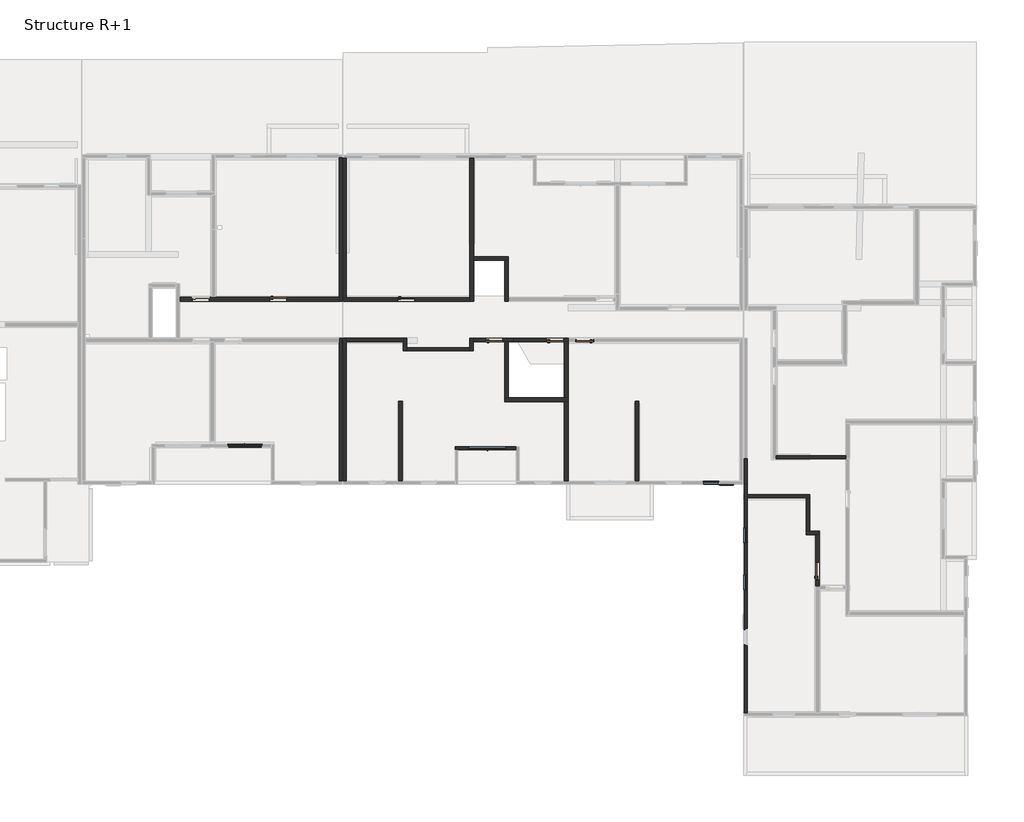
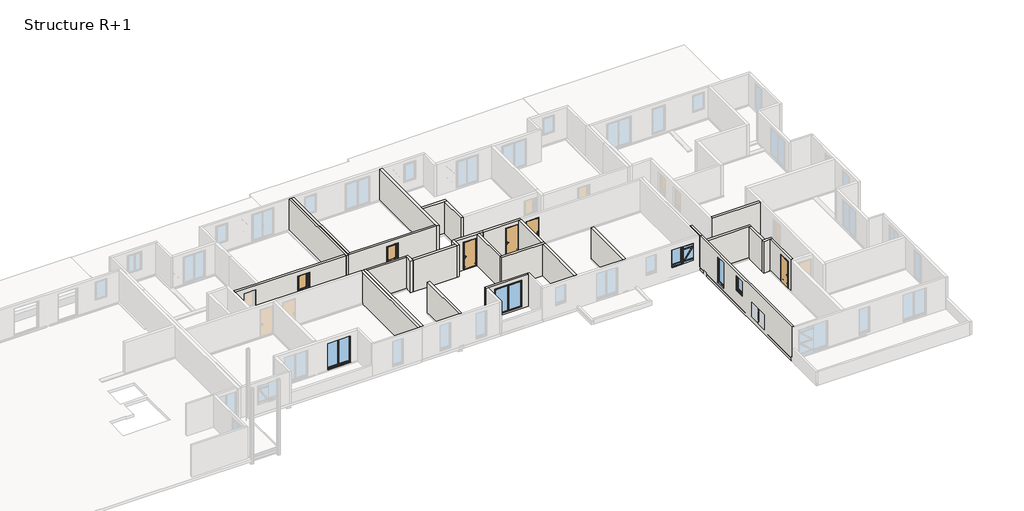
# One storey, part 5 of 11: 29 walls, 6 doors, 5 windows.
"""IFC4 building model written with IfcOpenShell, lengths in millimetres."""

from ifc_helpers import new_model, si_unit, frame, origin, place, context, project, spatial, polyline, outline, extrude, faceted_brep, transform, mapped, element, save
from components import door_88e42b76, door_d45fdbb8, door_280daffa, window_595b25a0, window_0_80m_x_1_15m_e63e5422, window_0_80m_x_2_05m_30132c93, window_1_80m_x_2_15m_7d3a4370, window_2_00m_x_2_15m_5decbdad

model = new_model("IFC4")

# Units and contexts
model_context = context("Model", 3, world=origin())
ifc_project = project(units=[si_unit("LENGTHUNIT", "METRE", prefix="MILLI")], contexts=[model_context])

# Site, building, storey
site = spatial("IfcSite", under=ifc_project)
building = spatial("IfcBuilding", under=site)
storey = spatial("IfcBuildingStorey", under=building, Name="Structure R+1", Elevation=3320.0)

# Doors
placement = place(None, origin())
door_shape = door_88e42b76(model_context)
element("IfcDoor", 1, ObjectType="Entrée (avec angle d'ouverture) : PP Avec moulures (0.90 m x 2.15 m)", at=placement, inside=storey, context=model_context, shape_type="MappedRepresentation", body=[
    mapped(door_shape, transform((34385.1786351, 24372.4965623, 3320.0), x_axis=(1.0, 0.0, 0.0), y_axis=(0.0, 1.0, 0.0), z_axis=(0.0, 0.0, 1.0))),
])
door_2_shape = door_d45fdbb8(model_context)
element("IfcDoor", 2, ObjectType="Entrée (avec angle d'ouverture) : PP Avec moulures (0.90 m x 2.15 m)", at=placement, inside=storey, context=model_context, shape_type="MappedRepresentation", body=[
    mapped(door_2_shape, transform((49225.0121044, 22187.4949823, 3320.0), x_axis=(1.0, 0.0, 0.0), y_axis=(0.0, 1.0, 0.0), z_axis=(0.0, 0.0, 1.0))),
])
element("IfcDoor", 3, ObjectType="Entrée (avec angle d'ouverture) : PP Avec moulures (0.90 m x 2.15 m)", at=placement, inside=storey, context=model_context, shape_type="MappedRepresentation", body=[
    mapped(door_2_shape, transform((45968.8671522, 22187.4951106, 3320.0), x_axis=(1.0, 0.0, 0.0), y_axis=(0.0, 1.0, 0.0), z_axis=(0.0, 0.0, 1.0))),
])
door_3_shape = door_280daffa(model_context)
element("IfcDoor", 4, ObjectType="Entrée (avec angle d'ouverture) : PP Avec moulures (0.90 m x 2.15 m)", at=placement, inside=storey, context=model_context, shape_type="MappedRepresentation", body=[
    mapped(door_3_shape, transform((41244.7127506, 24362.4952381, 3320.0), x_axis=(1.0, 0.0, 0.0), y_axis=(0.0, 1.0, 0.0), z_axis=(0.0, 0.0, 1.0))),
])
element("IfcDoor", 5, ObjectType="Entrée (avec angle d'ouverture) : PP Avec moulures (0.90 m x 2.15 m)", at=placement, inside=storey, context=model_context, shape_type="MappedRepresentation", body=[
    mapped(door_3_shape, transform((50805.0121044, 22187.4949823, 3320.0), x_axis=(-1.0, 0.0, 0.0), y_axis=(0.0, -1.0, 0.0), z_axis=(0.0, 0.0, 1.0))),
])
element("IfcDoor", 6, ObjectType="Entrée (avec angle d'ouverture) : PP Avec moulures (0.90 m x 2.15 m)", at=placement, inside=storey, context=model_context, shape_type="MappedRepresentation", body=[
    mapped(door_3_shape, transform((63287.9329052, 9804.0889515, 3320.0), x_axis=(0.0, 1.0, 0.0), y_axis=(-1.0, 0.0, 0.0), z_axis=(0.0, 0.0, 1.0))),
])

# Walls
element("IfcWall", 7, ObjectType="Ext. Voile BA 16 + Isolant 12 sans enduit", at=placement, inside=storey, context=model_context, shape_type="Brep", body=[
    faceted_brep([(59512.9059955, 14437.838074, 3230.0), (59512.9059955, 15804.7371469, 3230.0), (59512.9059955, 15804.7371469, 5830.0), (59512.9059955, 14437.838074, 5830.0), (59352.9059955, 14437.838074, 3230.0), (59352.9059955, 14437.838074, 5830.0), (59352.9059955, 15804.7371469, 5830.0), (59352.9059955, 15804.7371469, 3230.0), (59353.9486146, 14437.838074, 3230.0)], [[[0, 1, 2, 3]], [[4, 5, 6, 7]], [[1, 0, 8, 4, 7]], [[2, 1, 7, 6]], [[3, 2, 6, 5]], [[0, 3, 5, 4, 8]]]),
])
element("IfcWall", 8, ObjectType="Ext. Voile BA 16 + Isolant 120", at=placement, inside=storey, context=model_context, shape_type="Brep", body=[
    faceted_brep([(59512.9059955, 14437.838074, 5830.0), (59512.9059955, 13894.0889866, 5830.0), (59512.9059955, 13714.0889866, 5830.0), (59512.9059955, 2184.0269927, 5830.0), (59512.9059955, 2184.0269927, 3230.0), (59512.9059955, 13714.0889866, 3230.0), (59512.9059955, 13894.0889866, 3230.0), (59512.9059955, 14437.838074, 3230.0), (59512.9059955, 9590.2011252, 4355.0), (59512.9059955, 8790.2011252, 4355.0), (59512.9059955, 8740.2011252, 4355.0), (59512.9059955, 8740.2011252, 5555.0), (59512.9059955, 9640.2011252, 5555.0), (59512.9059955, 9640.2011252, 4355.0), (59512.9059955, 12169.0889866, 3455.0), (59512.9059955, 11269.0889866, 3455.0), (59512.9059955, 11269.0889866, 5555.0), (59512.9059955, 12169.0889866, 5555.0), (59512.9059955, 6705.2011252, 3455.0), (59512.9059955, 5805.2011252, 3455.0), (59512.9059955, 5805.2011252, 4655.0), (59512.9059955, 6705.2011252, 4655.0), (59352.9059955, 14437.838074, 3030.0), (59352.9059955, 2104.0269927, 3030.0), (59352.9059955, 2104.0269927, 3230.0), (59352.9059955, 2184.0269927, 3230.0), (59352.9059955, 2184.0269927, 5830.0), (59352.9059955, 14437.838074, 5830.0), (59352.9059955, 14437.838074, 3230.0), (59352.9059955, 8790.2011252, 5505.0), (59352.9059955, 8790.2011252, 4346.5916612), (59352.9059955, 9590.2011252, 4346.5916612), (59352.9059955, 9590.2011252, 5505.0), (59352.9059955, 11319.0889866, 5505.0), (59352.9059955, 11319.0889866, 3446.5916612), (59352.9059955, 12119.0889866, 3446.5916612), (59352.9059955, 12119.0889866, 5505.0), (59352.9059955, 5855.2011252, 4605.0), (59352.9059955, 5855.2011252, 3375.0), (59352.9059955, 6655.2011252, 3375.0), (59352.9059955, 6655.2011252, 4605.0), (59353.9486146, 14437.838074, 3030.0), (59353.9486146, 2104.0269927, 3030.0), (59353.9486146, 14437.838074, 3230.0), (59412.9059955, 8790.2011252, 5505.0), (59412.9059955, 8790.2011252, 4355.0), (59432.9059955, 8790.2011252, 4355.0), (59432.9059955, 9590.2011252, 4355.0), (59412.9059955, 9590.2011252, 4355.0), (59412.9059955, 9590.2011252, 5505.0), (59412.9059955, 8780.2011252, 4355.0), (59462.9059955, 8780.2011252, 4355.0), (59462.9059955, 8740.2011252, 4355.0), (59462.9059955, 9640.2011252, 4355.0), (59462.9059955, 9600.2011252, 4355.0), (59412.9059955, 9600.2011252, 4355.0), (59462.9059955, 8740.2011252, 5555.0), (59462.9059955, 9640.2011252, 5555.0), (59462.9059955, 8780.2011252, 5515.0), (59462.9059955, 9600.2011252, 5515.0), (59412.9059955, 8780.2011252, 5515.0), (59412.9059955, 9600.2011252, 5515.0), (59432.9059955, 11319.0889866, 3455.0), (59412.9059955, 11319.0889866, 5505.0), (59412.9059955, 11319.0889866, 3455.0), (59432.9059955, 12119.0889866, 3455.0), (59412.9059955, 12119.0889866, 3455.0), (59412.9059955, 12119.0889866, 5505.0), (59412.9059955, 11309.0889866, 3455.0), (59462.9059955, 11309.0889866, 3455.0), (59462.9059955, 11269.0889866, 3455.0), (59462.9059955, 12169.0889866, 3455.0), (59462.9059955, 12129.0889866, 3455.0), (59412.9059955, 12129.0889866, 3455.0), (59462.9059955, 11269.0889866, 5555.0), (59462.9059955, 11309.0889866, 5515.0), (59462.9059955, 12129.0889866, 5515.0), (59462.9059955, 12169.0889866, 5555.0), (59412.9059955, 11309.0889866, 5515.0), (59412.9059955, 12129.0889866, 5515.0), (59353.9486146, 2104.0269927, 3230.0), (59353.9486146, 2184.0269927, 3230.0), (59432.9059955, 5855.2011252, 3375.0), (59412.9059955, 5855.2011252, 4605.0), (59412.9059955, 5855.2011252, 3455.0), (59432.9059955, 5855.2011252, 3455.0), (59432.9059955, 6655.2011252, 3375.0), (59432.9059955, 6655.2011252, 3455.0), (59412.9059955, 6655.2011252, 3455.0), (59412.9059955, 6655.2011252, 4605.0), (59412.9059955, 5845.2011252, 3455.0), (59462.9059955, 5845.2011252, 3455.0), (59462.9059955, 5805.2011252, 3455.0), (59462.9059955, 6705.2011252, 3455.0), (59462.9059955, 6665.2011252, 3455.0), (59412.9059955, 6665.2011252, 3455.0), (59462.9059955, 5805.2011252, 4655.0), (59462.9059955, 5845.2011252, 4615.0), (59462.9059955, 6665.2011252, 4615.0), (59462.9059955, 6705.2011252, 4655.0), (59412.9059955, 5845.2011252, 4615.0), (59412.9059955, 6665.2011252, 4615.0)], [[[0, 1, 2, 3, 4, 5, 6, 7], [8, 9, 10, 11, 12, 13], [14, 15, 16, 17], [18, 19, 20, 21]], [[22, 23, 24, 25, 26, 27, 28], [29, 30, 31, 32], [33, 34, 35, 36], [37, 38, 39, 40]], [[23, 22, 41, 42]], [[22, 28, 27, 0, 7, 43, 41]], [[3, 2, 1, 0, 27, 26]], [[44, 45, 46, 30, 29]], [[47, 48, 49, 32, 31]], [[46, 45, 50, 51, 52, 10, 9, 8, 13, 53, 54, 55, 48, 47]], [[49, 44, 29, 32]], [[46, 47, 31, 30]], [[10, 52, 56, 11]], [[54, 53, 57, 56, 52, 51, 58, 59]], [[51, 50, 60, 58]], [[45, 44, 49, 48, 55, 61, 60, 50]], [[11, 56, 57, 12]], [[59, 58, 60, 61]], [[53, 13, 12, 57]], [[55, 54, 59, 61]], [[62, 34, 33, 63, 64]], [[35, 65, 66, 67, 36]], [[34, 62, 65, 35]], [[63, 33, 36, 67]], [[62, 64, 68, 69, 70, 15, 14, 71, 72, 73, 66, 65]], [[15, 70, 74, 16]], [[70, 69, 75, 76, 72, 71, 77, 74]], [[69, 68, 78, 75]], [[64, 63, 67, 66, 73, 79, 78, 68]], [[16, 74, 77, 17]], [[76, 75, 78, 79]], [[71, 14, 17, 77]], [[73, 72, 76, 79]], [[24, 23, 42, 80]], [[25, 24, 80, 81]], [[82, 38, 37, 83, 84, 85]], [[39, 86, 87, 88, 89, 40]], [[38, 82, 86, 39]], [[83, 37, 40, 89]], [[85, 84, 90, 91, 92, 19, 18, 93, 94, 95, 88, 87]], [[19, 92, 96, 20]], [[92, 91, 97, 98, 94, 93, 99, 96]], [[91, 90, 100, 97]], [[84, 83, 89, 88, 95, 101, 100, 90]], [[20, 96, 99, 21]], [[98, 97, 100, 101]], [[93, 18, 21, 99]], [[95, 94, 98, 101]], [[82, 85, 87, 86]], [[81, 43, 7, 6, 5, 4]], [[43, 81, 80, 42, 41]], [[3, 26, 25, 81, 4]]]),
])
element("IfcWall", 9, ObjectType="Ext. Voile BA 16 + Isolant 120", at=placement, inside=storey, context=model_context, shape_type="Brep", body=[
    faceted_brep([(47132.2384282, 16448.2809457, 3230.0), (43855.5620379, 16448.2809457, 3230.0), (43855.5620379, 16448.2809457, 5830.0), (47132.2384282, 16448.2809457, 5830.0), (44573.900233, 16448.2809457, 5505.0), (44573.900233, 16448.2809457, 3346.5916612), (46573.900233, 16448.2809457, 3346.5916612), (46573.900233, 16448.2809457, 5505.0), (47132.2384282, 16288.2809457, 3230.0), (47132.2384282, 16288.2809457, 5830.0), (44015.5620379, 16288.2809457, 5830.0), (43855.5620379, 16288.2809457, 5830.0), (43855.5620379, 16288.2809457, 3230.0), (44015.5620379, 16288.2809457, 3230.0), (46623.900233, 16288.2809457, 3355.0), (44523.900233, 16288.2809457, 3355.0), (44523.900233, 16288.2809457, 5555.0), (46623.900233, 16288.2809457, 5555.0), (44573.900233, 16368.2809457, 3355.0), (44573.900233, 16388.2809457, 5505.0), (44573.900233, 16388.2809457, 3355.0), (46573.900233, 16368.2809457, 3355.0), (46573.900233, 16388.2809457, 3355.0), (46573.900233, 16388.2809457, 5505.0), (44563.900233, 16388.2809457, 3355.0), (44563.900233, 16338.2809457, 3355.0), (44523.900233, 16338.2809457, 3355.0), (46623.900233, 16338.2809457, 3355.0), (46583.900233, 16338.2809457, 3355.0), (46583.900233, 16388.2809457, 3355.0), (44523.900233, 16338.2809457, 5555.0), (44563.900233, 16338.2809457, 5515.0), (46583.900233, 16338.2809457, 5515.0), (46623.900233, 16338.2809457, 5555.0), (44563.900233, 16388.2809457, 5515.0), (46583.900233, 16388.2809457, 5515.0)], [[[0, 1, 2, 3], [4, 5, 6, 7]], [[8, 9, 10, 11, 12, 13], [14, 15, 16, 17]], [[1, 0, 8, 13, 12]], [[3, 2, 11, 10, 9]], [[2, 1, 12, 11]], [[0, 3, 9, 8]], [[18, 5, 4, 19, 20]], [[6, 21, 22, 23, 7]], [[18, 21, 6, 5]], [[4, 7, 23, 19]], [[21, 18, 20, 24, 25, 26, 15, 14, 27, 28, 29, 22]], [[15, 26, 30, 16]], [[26, 25, 31, 32, 28, 27, 33, 30]], [[25, 24, 34, 31]], [[24, 20, 19, 23, 22, 29, 35, 34]], [[16, 30, 33, 17]], [[32, 31, 34, 35]], [[33, 27, 14, 17]], [[28, 32, 35, 29]]]),
])
element("IfcWall", 10, ObjectType="Voile BA 16", at=placement, inside=storey, context=model_context, shape_type="Brep", body=[
    faceted_brep([(37648.3832806, 31947.4972516, 5830.0), (37648.3832806, 31947.4972516, 3230.0), (37648.3832806, 24472.4965623, 3230.0), (37648.3832806, 24272.4965623, 3230.0), (37648.3832806, 24272.4965623, 5830.0), (37648.3832806, 24472.4965623, 5830.0), (37808.3832806, 31947.4972516, 3230.0), (37808.3832806, 31947.4972516, 5830.0), (37808.3832806, 24272.4965623, 5830.0), (37808.3832806, 24272.4965623, 3230.0)], [[[0, 1, 2, 3, 4, 5]], [[6, 7, 8, 9]], [[3, 2, 1, 6, 9]], [[0, 5, 4, 8, 7]], [[4, 3, 9, 8]], [[0, 7, 6, 1]]]),
])
element("IfcWall", 11, ObjectType="Voile BA 16", at=placement, inside=storey, context=model_context, shape_type="Brep", body=[
    faceted_brep([(37647.390788, 22272.4973448, 3230.0), (37647.390788, 22072.4973448, 3230.0), (37647.390788, 14597.8380864, 3230.0), (37647.390788, 14597.8380864, 5830.0), (37647.390788, 22072.4973448, 5830.0), (37647.390788, 22272.4973448, 5830.0), (37807.390788, 22272.4973448, 3230.0), (37807.390788, 22272.4973448, 5830.0), (37807.390788, 14597.8380864, 5830.0), (37807.390788, 14597.8380864, 3230.0)], [[[0, 1, 2, 3, 4, 5]], [[6, 7, 8, 9]], [[2, 1, 0, 6, 9]], [[5, 4, 3, 8, 7]], [[0, 5, 7, 6]], [[3, 2, 9, 8]]]),
])
element("IfcWall", 12, ObjectType="Voile BA 16", at=placement, inside=storey, context=model_context, shape_type="Brep", body=[
    faceted_brep([(38027.390788, 14617.4952897, 3230.0), (38027.390788, 22002.4949823, 3230.0), (38027.390788, 22092.4955917, 3230.0), (38027.390788, 22272.4955917, 3230.0), (38027.390788, 22272.4955917, 5830.0), (38027.390788, 22092.4955917, 5830.0), (38027.390788, 14617.4952897, 5830.0), (37867.390788, 14617.4952897, 3230.0), (37867.390788, 14617.4952897, 5830.0), (37867.390788, 22272.4955917, 5830.0), (37867.390788, 22272.4955917, 3230.0), (37868.7313075, 22272.4955917, 3230.0)], [[[0, 1, 2, 3, 4, 5, 6]], [[7, 8, 9, 10]], [[3, 2, 1, 0, 7, 10, 11]], [[6, 5, 4, 9, 8]], [[4, 3, 11, 10, 9]], [[0, 6, 8, 7]]]),
])
element("IfcWall", 13, ObjectType="Voile BA 16", at=placement, inside=storey, context=model_context, shape_type="Brep", body=[
    faceted_brep([(37868.7313075, 31927.4960094, 5830.0), (37868.7313075, 31927.4960094, 3230.0), (37868.7313075, 24452.4952381, 3230.0), (37868.7313075, 24452.4952381, 5830.0), (38028.7313075, 31927.4960094, 3230.0), (38028.7313075, 31927.4960094, 5830.0), (38028.7313075, 24452.4952381, 5830.0), (38028.7313075, 24452.4952381, 3320.0), (38028.7313075, 24452.4952381, 3230.0), (38028.7313075, 24522.4972452, 3230.0)], [[[0, 1, 2, 3]], [[4, 5, 6, 7, 8, 9]], [[2, 1, 4, 9, 8]], [[0, 3, 6, 5]], [[3, 2, 8, 7, 6]], [[0, 5, 4, 1]]]),
])
element("IfcWall", 14, ObjectType="Voile BA 18", at=placement, inside=storey, context=model_context, shape_type="Brep", body=[
    faceted_brep([(46985.0121044, 22097.4949823, 3230.0), (49725.0121044, 22097.4949823, 3230.0), (49925.0121044, 22097.4949823, 3230.0), (49925.0121044, 22097.4949823, 5830.0), (49725.0121044, 22097.4949823, 5830.0), (46985.0121044, 22097.4949823, 5830.0), (48755.0121044, 22097.4949823, 3320.0), (48725.0121044, 22097.4949823, 3320.0), (48725.0121044, 22097.4949823, 5510.0), (49705.0121044, 22097.4949823, 5510.0), (49705.0121044, 22097.4949823, 3320.0), (49675.0121044, 22097.4949823, 3320.0), (49925.0121044, 22277.4949823, 3230.0), (46985.0121044, 22277.4949823, 3230.0), (46985.0121044, 22277.4949823, 5830.0), (49925.0121044, 22277.4949823, 5830.0), (49675.0121044, 22277.4949823, 5480.0), (48755.0121044, 22277.4949823, 5480.0), (48755.0121044, 22277.4949823, 3320.0), (49675.0121044, 22277.4949823, 3320.0), (49675.0121044, 22197.4949823, 5480.0), (48755.0121044, 22197.4949823, 5480.0), (48755.0121044, 22197.4949823, 3320.0), (48740.0121044, 22197.4949823, 3320.0), (48740.0121044, 22154.4949823, 3320.0), (48725.0121044, 22154.4949823, 3320.0), (49705.0121044, 22154.4949823, 3320.0), (49690.0121044, 22154.4949823, 3320.0), (49690.0121044, 22197.4949823, 3320.0), (49675.0121044, 22197.4949823, 3320.0), (48740.0121044, 22154.4949823, 5495.0), (49690.0121044, 22154.4949823, 5495.0), (49705.0121044, 22154.4949823, 5510.0), (48725.0121044, 22154.4949823, 5510.0), (48740.0121044, 22197.4949823, 5495.0), (49690.0121044, 22197.4949823, 5495.0)], [[[0, 1, 2, 3, 4, 5], [6, 7, 8, 9, 10, 11]], [[12, 13, 14, 15], [16, 17, 18, 19]], [[2, 1, 0, 13, 12]], [[5, 4, 3, 15, 14]], [[0, 5, 14, 13]], [[3, 2, 12, 15]], [[20, 21, 17, 16]], [[22, 23, 24, 25, 7, 6, 11, 10, 26, 27, 28, 29, 19, 18]], [[29, 20, 16, 19]], [[21, 22, 18, 17]], [[25, 24, 30, 31, 27, 26, 32, 33]], [[7, 25, 33, 8]], [[33, 32, 9, 8]], [[26, 10, 9, 32]], [[24, 23, 34, 30]], [[21, 20, 29, 28, 35, 34, 23, 22]], [[31, 30, 34, 35]], [[28, 27, 31, 35]]]),
])
element("IfcWall", 15, ObjectType="Voile BA 18 + 6 + 1", at=placement, inside=storey, context=model_context, shape_type="Brep", body=[
    faceted_brep([(37868.7313075, 24272.4952381, 3230.0), (44641.4313075, 24272.4952381, 3230.0), (44657.3927707, 24272.4952381, 3230.0), (44657.3927707, 24272.4952381, 5830.0), (37868.7313075, 24272.4952381, 5830.0), (37868.7313075, 24272.4952381, 3320.0), (40774.7127506, 24272.4952381, 5480.0), (41694.7127506, 24272.4952381, 5480.0), (41694.7127506, 24272.4952381, 3320.0), (40774.7127506, 24272.4952381, 3320.0), (44657.3927707, 24452.4952381, 3230.0), (44641.4313075, 24452.4952381, 3230.0), (38028.7313075, 24452.4952381, 3230.0), (37868.7313075, 24452.4952381, 3230.0), (37868.7313075, 24452.4952381, 5830.0), (38028.7313075, 24452.4952381, 5830.0), (44657.3927707, 24452.4952381, 5830.0), (41694.7127506, 24452.4952381, 3320.0), (41724.7127506, 24452.4952381, 3320.0), (41724.7127506, 24452.4952381, 5510.0), (40744.7127506, 24452.4952381, 5510.0), (40744.7127506, 24452.4952381, 3320.0), (40774.7127506, 24452.4952381, 3320.0), (40774.7127506, 24352.4952381, 5480.0), (41694.7127506, 24352.4952381, 5480.0), (41694.7127506, 24352.4952381, 3320.0), (41709.7127506, 24352.4952381, 3320.0), (41709.7127506, 24395.4952381, 3320.0), (41724.7127506, 24395.4952381, 3320.0), (40744.7127506, 24395.4952381, 3320.0), (40759.7127506, 24395.4952381, 3320.0), (40759.7127506, 24352.4952381, 3320.0), (40774.7127506, 24352.4952381, 3320.0), (41709.7127506, 24395.4952381, 5495.0), (40759.7127506, 24395.4952381, 5495.0), (40744.7127506, 24395.4952381, 5510.0), (41724.7127506, 24395.4952381, 5510.0), (40759.7127506, 24352.4952381, 5495.0), (41709.7127506, 24352.4952381, 5495.0)], [[[0, 1, 2, 3, 4, 5], [6, 7, 8, 9]], [[10, 11, 12, 13, 14, 15, 16], [17, 18, 19, 20, 21, 22]], [[2, 1, 0, 13, 12, 11, 10]], [[4, 3, 16, 15, 14]], [[3, 2, 10, 16]], [[0, 5, 4, 14, 13]], [[23, 24, 7, 6]], [[25, 26, 27, 28, 18, 17, 22, 21, 29, 30, 31, 32, 9, 8]], [[24, 25, 8, 7]], [[32, 23, 6, 9]], [[28, 27, 33, 34, 30, 29, 35, 36]], [[29, 21, 20, 35]], [[36, 35, 20, 19]], [[18, 28, 36, 19]], [[31, 30, 34, 37]], [[24, 23, 32, 31, 37, 38, 26, 25]], [[34, 33, 38, 37]], [[27, 26, 38, 33]]]),
])
element("IfcWall", 16, ObjectType="Voile BA 18 + 6 + 1", at=placement, inside=storey, context=model_context, shape_type="Brep", body=[
    faceted_brep([(61079.2327219, 15804.7366595, 3230.0), (61122.5915763, 15804.7366595, 3230.0), (62872.0153589, 15804.7366595, 3230.0), (64812.3590475, 15804.7366595, 3230.0), (64812.3590475, 15804.7366595, 5830.0), (61079.2327219, 15804.7366595, 5830.0), (61079.2327219, 15984.7366595, 3230.0), (61079.2327219, 15984.7366595, 3320.0), (61079.2327219, 15984.7366595, 5830.0), (64812.3590475, 15984.7366595, 5830.0), (64812.3590475, 15984.7366595, 3230.0), (62872.0153589, 15984.7366595, 3230.0), (61122.5915763, 15984.7366595, 3230.0)], [[[0, 1, 2, 3, 4, 5]], [[6, 7, 8, 9, 10, 11, 12]], [[3, 2, 1, 0, 6, 12, 11, 10]], [[5, 4, 9, 8]], [[4, 3, 10, 9]], [[0, 5, 8, 7, 6]]]),
])
element("IfcWall", 17, ObjectType="Voile BA 18 + 6 + 1", at=placement, inside=storey, context=model_context, shape_type="Brep", body=[
    faceted_brep([(46985.0121044, 22277.4951106, 3230.0), (44838.8737638, 22277.4951106, 3230.0), (44838.8737638, 22277.4951106, 5830.0), (46985.0121044, 22277.4951106, 5830.0), (46418.8671522, 22277.4951106, 5480.0), (45498.8671522, 22277.4951106, 5480.0), (45498.8671522, 22277.4951106, 3320.0), (46418.8671522, 22277.4951106, 3320.0), (44838.8737638, 22097.4951106, 3230.0), (46518.8671522, 22097.4951106, 3230.0), (46698.8671522, 22097.4951106, 3230.0), (46985.0121044, 22097.4951106, 3230.0), (46985.0121044, 22097.4951106, 5830.0), (46698.8671522, 22097.4951106, 5830.0), (46518.8671522, 22097.4951106, 5830.0), (44838.8737638, 22097.4951106, 5830.0), (45498.8671522, 22097.4951106, 3320.0), (45468.8671522, 22097.4951106, 3320.0), (45468.8671522, 22097.4951106, 5510.0), (46448.8671522, 22097.4951106, 5510.0), (46448.8671522, 22097.4951106, 3320.0), (46418.8671522, 22097.4951106, 3320.0), (46418.8671522, 22197.4951106, 5480.0), (45498.8671522, 22197.4951106, 5480.0), (45498.8671522, 22197.4951106, 3320.0), (45483.8671522, 22197.4951106, 3320.0), (45483.8671522, 22154.4951106, 3320.0), (45468.8671522, 22154.4951106, 3320.0), (46448.8671522, 22154.4951106, 3320.0), (46433.8671522, 22154.4951106, 3320.0), (46433.8671522, 22197.4951106, 3320.0), (46418.8671522, 22197.4951106, 3320.0), (45483.8671522, 22154.4951106, 5495.0), (46433.8671522, 22154.4951106, 5495.0), (46448.8671522, 22154.4951106, 5510.0), (45468.8671522, 22154.4951106, 5510.0), (45483.8671522, 22197.4951106, 5495.0), (46433.8671522, 22197.4951106, 5495.0)], [[[0, 1, 2, 3], [4, 5, 6, 7]], [[8, 9, 10, 11, 12, 13, 14, 15], [16, 17, 18, 19, 20, 21]], [[1, 0, 11, 10, 9, 8]], [[3, 2, 15, 14, 13, 12]], [[0, 3, 12, 11]], [[2, 1, 8, 15]], [[22, 23, 5, 4]], [[24, 25, 26, 27, 17, 16, 21, 20, 28, 29, 30, 31, 7, 6]], [[31, 22, 4, 7]], [[23, 24, 6, 5]], [[27, 26, 32, 33, 29, 28, 34, 35]], [[17, 27, 35, 18]], [[35, 34, 19, 18]], [[28, 20, 19, 34]], [[26, 25, 36, 32]], [[23, 22, 31, 30, 37, 36, 25, 24]], [[33, 32, 36, 37]], [[30, 29, 33, 37]]]),
])
element("IfcWall", 18, ObjectType="Voile BA 18 + 6 + 1", at=placement, inside=storey, context=model_context, shape_type="Brep", body=[
    faceted_brep([(44658.8737638, 22277.4951106, 3230.0), (44658.8737638, 21772.4952075, 3230.0), (44658.8737638, 21592.4952075, 3230.0), (44658.8737638, 21592.4952075, 5830.0), (44658.8737638, 21772.4952075, 5830.0), (44658.8737638, 22277.4951106, 5830.0), (44838.8737638, 22277.4951106, 3230.0), (44838.8737638, 22277.4951106, 5830.0), (44838.8737638, 22097.4951106, 5830.0), (44838.8737638, 21592.4952075, 5830.0), (44838.8737638, 21592.4952075, 3230.0), (44838.8737638, 22097.4951106, 3230.0)], [[[0, 1, 2, 3, 4, 5]], [[6, 7, 8, 9, 10, 11]], [[2, 1, 0, 6, 11, 10]], [[5, 4, 3, 9, 8, 7]], [[3, 2, 10, 9]], [[0, 5, 7, 6]]]),
])
element("IfcWall", 19, ObjectType="Voile BA 18 + 6 + 1", at=placement, inside=storey, context=model_context, shape_type="SweptSolid", body=[
    extrude(outline(polyline([(41278.8737638, 21772.4952075), (44658.8737638, 21772.4952075), (44658.8737638, 21592.4952075), (41278.8737638, 21592.4952075), (41278.8737638, 21772.4952075)])), frame((0.0, 0.0, 3230.0), z_axis=(0.0, 0.0, 1.0), x_axis=(1.0, 0.0, 0.0)), (0.0, 0.0, 1.0), 2600.0),
])
element("IfcWall", 20, ObjectType="Voile BA 18 + 6 + 1", at=placement, inside=storey, context=model_context, shape_type="Brep", body=[
    faceted_brep([(41078.8737638, 22272.4955917, 3230.0), (38027.390788, 22272.4955917, 3230.0), (38027.390788, 22272.4955917, 5830.0), (41078.8737638, 22272.4955917, 5830.0), (41078.8737638, 22092.4955917, 3230.0), (41078.8737638, 22092.4955917, 3320.0), (41078.8737638, 22092.4955917, 5830.0), (38027.390788, 22092.4955917, 5830.0), (38027.390788, 22092.4955917, 3320.0), (38027.390788, 22092.4955917, 3230.0)], [[[0, 1, 2, 3]], [[4, 5, 6, 7, 8, 9]], [[1, 0, 4, 9]], [[3, 2, 7, 6]], [[0, 3, 6, 5, 4]], [[2, 1, 9, 8, 7]]]),
])
element("IfcWall", 21, ObjectType="Voile BA 18 + 6 + 1", at=placement, inside=storey, context=model_context, shape_type="Brep", body=[
    faceted_brep([(59512.9059955, 13714.0889866, 3230.0), (62692.5285893, 13714.0889866, 3230.0), (62872.5285893, 13714.0889866, 3230.0), (62872.5285893, 13714.0889866, 5830.0), (62692.5285893, 13714.0889866, 5830.0), (59512.9059955, 13714.0889866, 5830.0), (59512.9059955, 13894.0889866, 3230.0), (59512.9059955, 13894.0889866, 5830.0), (62872.5285893, 13894.0889866, 5830.0), (62872.5285893, 13894.0889866, 3230.0)], [[[0, 1, 2, 3, 4, 5]], [[6, 7, 8, 9]], [[2, 1, 0, 6, 9]], [[5, 4, 3, 8, 7]], [[0, 5, 7, 6]], [[3, 2, 9, 8]]]),
])
element("IfcWall", 22, ObjectType="Voile BA 18 + 6 + 1", at=placement, inside=storey, context=model_context, shape_type="SweptSolid", body=[
    extrude(outline(polyline([(62692.5285893, 11924.0889515), (62692.5285893, 13714.0889866), (62872.5285893, 13714.0889866), (62872.5285893, 11924.0889515), (62692.5285893, 11924.0889515)])), frame((0.0, 0.0, 3230.0), z_axis=(0.0, 0.0, 1.0), x_axis=(1.0, 0.0, 0.0)), (0.0, 0.0, 1.0), 2600.0),
])
element("IfcWall", 23, ObjectType="Voile BA 18 + 6 + 1", at=placement, inside=storey, context=model_context, shape_type="Brep", body=[
    faceted_brep([(62692.5285893, 11744.0889515, 3230.0), (63147.9323598, 11744.0889515, 3230.0), (63197.9329052, 11744.0889515, 3230.0), (63377.9329052, 11744.0889515, 3230.0), (63377.9329052, 11744.0889515, 5830.0), (63197.9329052, 11744.0889515, 5830.0), (62692.5285893, 11744.0889515, 5830.0), (62692.5285893, 11924.0889515, 3230.0), (62692.5285893, 11924.0889515, 5830.0), (62872.5285893, 11924.0889515, 5830.0), (63377.9329052, 11924.0889515, 5830.0), (63377.9329052, 11924.0889515, 3320.0), (63377.9329052, 11924.0889515, 3230.0), (63147.9323598, 11924.0889515, 3230.0), (62872.5285893, 11924.0889515, 3230.0)], [[[0, 1, 2, 3, 4, 5, 6]], [[7, 8, 9, 10, 11, 12, 13, 14]], [[3, 2, 1, 0, 7, 14, 13, 12]], [[6, 5, 4, 10, 9, 8]], [[0, 6, 8, 7]], [[4, 3, 12, 11, 10]]]),
])
element("IfcWall", 24, ObjectType="Voile BA 18 + 6 + 1", at=placement, inside=storey, context=model_context, shape_type="Brep", body=[
    faceted_brep([(63197.9329052, 11744.0889515, 3230.0), (63197.9329052, 9005.43291, 3230.0), (63197.9329052, 9005.43291, 5830.0), (63197.9329052, 11744.0889515, 5830.0), (63197.9329052, 11744.0889515, 3320.0), (63197.9329052, 10254.0889515, 3320.0), (63197.9329052, 10284.0889515, 3320.0), (63197.9329052, 10284.0889515, 5510.0), (63197.9329052, 9304.0889515, 5510.0), (63197.9329052, 9304.0889515, 3320.0), (63197.9329052, 9334.0889515, 3320.0), (63377.9329052, 9005.43291, 3230.0), (63377.9329052, 11744.0889515, 3230.0), (63377.9329052, 11744.0889515, 5830.0), (63377.9329052, 9005.43291, 5830.0), (63377.9329052, 9005.43291, 3320.0), (63377.9329052, 9334.0889515, 5480.0), (63377.9329052, 10254.0889515, 5480.0), (63377.9329052, 10254.0889515, 3320.0), (63377.9329052, 9334.0889515, 3320.0), (63297.9329052, 9334.0889515, 5480.0), (63297.9329052, 10254.0889515, 5480.0), (63297.9329052, 10254.0889515, 3320.0), (63297.9329052, 10269.0889515, 3320.0), (63254.9329052, 10269.0889515, 3320.0), (63254.9329052, 10284.0889515, 3320.0), (63254.9329052, 9304.0889515, 3320.0), (63254.9329052, 9319.0889515, 3320.0), (63297.9329052, 9319.0889515, 3320.0), (63297.9329052, 9334.0889515, 3320.0), (63254.9329052, 10269.0889515, 5495.0), (63254.9329052, 9319.0889515, 5495.0), (63254.9329052, 9304.0889515, 5510.0), (63254.9329052, 10284.0889515, 5510.0), (63297.9329052, 9319.0889515, 5495.0), (63297.9329052, 10269.0889515, 5495.0)], [[[0, 1, 2, 3, 4], [5, 6, 7, 8, 9, 10]], [[11, 12, 13, 14, 15], [16, 17, 18, 19]], [[1, 0, 12, 11]], [[3, 2, 14, 13]], [[0, 4, 3, 13, 12]], [[2, 1, 11, 15, 14]], [[20, 21, 17, 16]], [[22, 23, 24, 25, 6, 5, 10, 9, 26, 27, 28, 29, 19, 18]], [[21, 22, 18, 17]], [[29, 20, 16, 19]], [[25, 24, 30, 31, 27, 26, 32, 33]], [[26, 9, 8, 32]], [[33, 32, 8, 7]], [[6, 25, 33, 7]], [[28, 27, 31, 34]], [[21, 20, 29, 28, 34, 35, 23, 22]], [[31, 30, 35, 34]], [[24, 23, 35, 30]]]),
])
element("IfcWall", 25, ObjectType="Voile BA 18 + Isolant 4", at=placement, inside=storey, context=model_context, shape_type="SweptSolid", body=[
    extrude(outline(polyline([(46698.8671522, 22097.4951106), (46698.8671522, 19072.9017524), (46518.8671522, 19072.9017524), (46518.8671522, 22097.4951106), (46698.8671522, 22097.4951106)])), frame((0.0, 0.0, 3230.0), z_axis=(0.0, 0.0, 1.0), x_axis=(1.0, 0.0, 0.0)), (0.0, 0.0, 1.0), 2600.0),
])
element("IfcWall", 26, ObjectType="Voile BA 20", at=placement, inside=storey, context=model_context, shape_type="Brep", body=[
    faceted_brep([(44657.3927707, 31927.4960094, 3230.0), (44657.3927707, 31857.4959984, 3230.0), (44657.3927707, 27376.5946511, 3230.0), (44657.3927707, 24452.4952381, 3230.0), (44657.3927707, 24272.4952381, 3230.0), (44657.3927707, 24267.4960094, 3230.0), (44657.3927707, 24267.4960094, 5830.0), (44657.3927707, 24272.4952381, 5830.0), (44657.3927707, 24452.4952381, 5830.0), (44657.3927707, 31927.4960094, 5830.0), (44657.3927707, 31927.4960094, 3320.0), (44857.3927707, 31927.4960094, 3230.0), (44857.3927707, 31927.4960094, 3320.0), (44857.3927707, 31927.4960094, 5830.0), (44857.3927707, 26657.7598122, 5830.0), (44857.3927707, 26457.7598122, 5830.0), (44857.3927707, 24267.4960094, 5830.0), (44857.3927707, 24267.4960094, 3230.0), (44857.3927707, 26457.7598122, 3230.0), (44857.3927707, 26657.7598122, 3230.0), (44857.3927707, 27376.5946511, 3230.0), (44857.3927707, 31857.4959984, 3230.0)], [[[0, 1, 2, 3, 4, 5, 6, 7, 8, 9, 10]], [[11, 12, 13, 14, 15, 16, 17, 18, 19, 20, 21]], [[5, 4, 3, 2, 1, 0, 11, 21, 20, 19, 18, 17]], [[6, 5, 17, 16]], [[9, 8, 7, 6, 16, 15, 14, 13]], [[0, 10, 9, 13, 12, 11]]]),
])
element("IfcWall", 27, ObjectType="Voile BA 20", at=placement, inside=storey, context=model_context, shape_type="SweptSolid", body=[
    extrude(outline(polyline([(49725.0121044, 14617.838074), (49725.0121044, 18872.9017524), (49925.0121044, 18872.9017524), (49925.0121044, 14617.838074), (49725.0121044, 14617.838074)])), frame((0.0, 0.0, 3230.0), z_axis=(0.0, 0.0, 1.0), x_axis=(1.0, 0.0, 0.0)), (0.0, 0.0, 1.0), 2600.0),
])
element("IfcWall", 28, ObjectType="Voile BA 20", at=placement, inside=storey, context=model_context, shape_type="Brep", body=[
    faceted_brep([(53510.2357198, 18892.838074, 3230.0), (53510.2357198, 18804.6746113, 3230.0), (53510.2357198, 14617.838074, 3230.0), (53510.2357198, 14617.838074, 3320.0), (53510.2357198, 14617.838074, 5830.0), (53510.2357198, 18892.838074, 5830.0), (53710.2357198, 18892.838074, 3230.0), (53710.2357198, 18892.838074, 5830.0), (53710.2357198, 14617.838074, 5830.0), (53710.2357198, 14617.838074, 3320.0), (53710.2357198, 14617.838074, 3230.0), (53710.2357198, 18804.6746113, 3230.0)], [[[0, 1, 2, 3, 4, 5]], [[6, 7, 8, 9, 10, 11]], [[2, 1, 0, 6, 11, 10]], [[5, 4, 8, 7]], [[0, 5, 7, 6]], [[4, 3, 2, 10, 9, 8]]]),
])
element("IfcWall", 29, ObjectType="Voile BA 20", at=placement, inside=storey, context=model_context, shape_type="Brep", body=[
    faceted_brep([(41027.3913304, 14617.4952897, 3230.0), (41027.3913304, 18892.1677314, 3230.0), (41027.3913304, 18892.4956587, 3230.0), (41027.3913304, 18892.4956587, 5830.0), (41027.3913304, 14617.4952897, 5830.0), (41027.3913304, 14617.4952897, 3320.0), (40827.3913304, 14617.4952897, 3230.0), (40827.3913304, 14617.4952897, 3320.0), (40827.3913304, 14617.4952897, 5830.0), (40827.3913304, 18892.4956587, 5830.0), (40827.3913304, 18892.4956587, 3230.0), (40827.3913304, 18892.1677314, 3230.0)], [[[0, 1, 2, 3, 4, 5]], [[6, 7, 8, 9, 10, 11]], [[2, 1, 0, 6, 11, 10]], [[3, 2, 10, 9]], [[4, 3, 9, 8]], [[0, 5, 4, 8, 7, 6]]]),
])
element("IfcWall", 30, ObjectType="Voile BA 20 + Isolant 60", at=placement, inside=storey, context=model_context, shape_type="Brep", body=[
    faceted_brep([(37648.3832806, 24472.4965623, 3230.0), (31002.3833363, 24472.4965623, 3230.0), (30802.3833363, 24472.4965623, 3230.0), (29098.3678937, 24472.4965623, 3230.0), (29098.3678937, 24472.4965623, 5830.0), (30802.3833363, 24472.4965623, 5830.0), (31002.3833363, 24472.4965623, 5830.0), (37648.3832806, 24472.4965623, 5830.0), (30682.3833363, 24472.4965623, 3320.0), (30712.3833363, 24472.4965623, 3320.0), (30712.3833363, 24472.4965623, 5510.0), (29732.3833363, 24472.4965623, 5510.0), (29732.3833363, 24472.4965623, 3320.0), (29762.3833363, 24472.4965623, 3320.0), (34835.1786351, 24472.4965623, 3320.0), (34865.1786351, 24472.4965623, 3320.0), (34865.1786351, 24472.4965623, 5510.0), (33885.1786351, 24472.4965623, 5510.0), (33885.1786351, 24472.4965623, 3320.0), (33915.1786351, 24472.4965623, 3320.0), (29098.3678937, 24272.4965623, 3230.0), (37648.3832806, 24272.4965623, 3230.0), (37648.3832806, 24272.4965623, 5830.0), (29098.3678937, 24272.4965623, 5830.0), (29762.3833363, 24272.4965623, 5480.0), (30682.3833363, 24272.4965623, 5480.0), (30682.3833363, 24272.4965623, 3320.0), (29762.3833363, 24272.4965623, 3320.0), (33915.1786351, 24272.4965623, 5480.0), (34835.1786351, 24272.4965623, 5480.0), (34835.1786351, 24272.4965623, 3320.0), (33915.1786351, 24272.4965623, 3320.0), (29762.3833363, 24372.4965623, 5480.0), (30682.3833363, 24372.4965623, 5480.0), (29747.3833363, 24372.4965623, 3320.0), (29762.3833363, 24372.4965623, 3320.0), (30682.3833363, 24372.4965623, 3320.0), (30697.3833363, 24372.4965623, 3320.0), (30697.3833363, 24415.4965623, 3320.0), (30712.3833363, 24415.4965623, 3320.0), (29732.3833363, 24415.4965623, 3320.0), (29747.3833363, 24415.4965623, 3320.0), (29732.3833363, 24415.4965623, 5510.0), (30712.3833363, 24415.4965623, 5510.0), (30697.3833363, 24415.4965623, 5495.0), (29747.3833363, 24415.4965623, 5495.0), (29747.3833363, 24372.4965623, 5495.0), (30697.3833363, 24372.4965623, 5495.0), (33915.1786351, 24372.4965623, 5480.0), (34835.1786351, 24372.4965623, 5480.0), (34835.1786351, 24372.4965623, 3320.0), (34850.1786351, 24372.4965623, 3320.0), (34850.1786351, 24415.4965623, 3320.0), (34865.1786351, 24415.4965623, 3320.0), (33885.1786351, 24415.4965623, 3320.0), (33900.1786351, 24415.4965623, 3320.0), (33900.1786351, 24372.4965623, 3320.0), (33915.1786351, 24372.4965623, 3320.0), (34850.1786351, 24415.4965623, 5495.0), (33900.1786351, 24415.4965623, 5495.0), (33885.1786351, 24415.4965623, 5510.0), (34865.1786351, 24415.4965623, 5510.0), (33900.1786351, 24372.4965623, 5495.0), (34850.1786351, 24372.4965623, 5495.0)], [[[0, 1, 2, 3, 4, 5, 6, 7], [8, 9, 10, 11, 12, 13], [14, 15, 16, 17, 18, 19]], [[20, 21, 22, 23], [24, 25, 26, 27], [28, 29, 30, 31]], [[3, 2, 1, 0, 21, 20]], [[7, 6, 5, 4, 23, 22]], [[0, 7, 22, 21]], [[4, 3, 20, 23]], [[32, 33, 25, 24]], [[34, 35, 27, 26, 36, 37, 38, 39, 9, 8, 13, 12, 40, 41]], [[33, 36, 26, 25]], [[35, 32, 24, 27]], [[41, 40, 42, 43, 39, 38, 44, 45]], [[40, 12, 11, 42]], [[43, 42, 11, 10]], [[9, 39, 43, 10]], [[34, 41, 45, 46]], [[33, 32, 35, 34, 46, 47, 37, 36]], [[45, 44, 47, 46]], [[38, 37, 47, 44]], [[48, 49, 29, 28]], [[50, 51, 52, 53, 15, 14, 19, 18, 54, 55, 56, 57, 31, 30]], [[49, 50, 30, 29]], [[57, 48, 28, 31]], [[53, 52, 58, 59, 55, 54, 60, 61]], [[54, 18, 17, 60]], [[61, 60, 17, 16]], [[15, 53, 61, 16]], [[56, 55, 59, 62]], [[49, 48, 57, 56, 62, 63, 51, 50]], [[59, 58, 63, 62]], [[52, 51, 63, 58]]]),
])
element("IfcWall", 31, ObjectType="Voile BA 20 + Isolant 60", at=placement, inside=storey, context=model_context, shape_type="Brep", body=[
    faceted_brep([(44857.3927707, 26457.7598122, 3230.0), (46510.3925697, 26457.7598122, 3230.0), (46710.3925697, 26457.7598122, 3230.0), (46710.3925697, 26457.7598122, 5830.0), (46510.3925697, 26457.7598122, 5830.0), (44857.3927707, 26457.7598122, 5830.0), (44857.3927707, 26657.7598122, 3230.0), (44857.3927707, 26657.7598122, 5830.0), (46710.3925697, 26657.7598122, 5830.0), (46710.3925697, 26657.7598122, 3230.0)], [[[0, 1, 2, 3, 4, 5]], [[6, 7, 8, 9]], [[2, 1, 0, 6, 9]], [[5, 4, 3, 8, 7]], [[0, 5, 7, 6]], [[3, 2, 9, 8]]]),
])
element("IfcWall", 32, ObjectType="Voile BA 20 + Isolant 60", at=placement, inside=storey, context=model_context, shape_type="Brep", body=[
    faceted_brep([(46510.3925697, 26457.7598122, 3230.0), (46510.3925697, 24272.4952381, 3230.0), (46510.3925697, 24272.4952381, 5830.0), (46510.3925697, 26457.7598122, 5830.0), (46710.3925697, 26457.7598122, 3230.0), (46710.3925697, 26457.7598122, 5830.0), (46710.3925697, 24472.4952381, 5830.0), (46710.3925697, 24272.4952381, 5830.0), (46710.3925697, 24272.4952381, 3230.0), (46710.3925697, 24472.4952381, 3230.0)], [[[0, 1, 2, 3]], [[4, 5, 6, 7, 8, 9]], [[1, 0, 4, 9, 8]], [[3, 2, 7, 6, 5]], [[2, 1, 8, 7]], [[0, 3, 5, 4]]]),
])
element("IfcWall", 33, ObjectType="Voile BA 20 + Isolant 60", at=placement, inside=storey, context=model_context, shape_type="SweptSolid", body=[
    extrude(outline(polyline([(49925.0121044, 22097.4949823), (49925.0121044, 19072.9017524), (49725.0121044, 19072.9017524), (49725.0121044, 22097.4949823), (49925.0121044, 22097.4949823)])), frame((0.0, 0.0, 3230.0), z_axis=(0.0, 0.0, 1.0), x_axis=(1.0, 0.0, 0.0)), (0.0, 0.0, 1.0), 2600.0),
])
element("IfcWall", 34, ObjectType="Voile BA 20 + Isolant 60", at=placement, inside=storey, context=model_context, shape_type="Brep", body=[
    faceted_brep([(49925.0121044, 19072.9017524, 3230.0), (49725.0121044, 19072.9017524, 3230.0), (46698.8671522, 19072.9017524, 3230.0), (46518.8671522, 19072.9017524, 3230.0), (46518.8671522, 19072.9017524, 5830.0), (46698.8671522, 19072.9017524, 5830.0), (49725.0121044, 19072.9017524, 5830.0), (49925.0121044, 19072.9017524, 5830.0), (49925.0121044, 18872.9017524, 3230.0), (49925.0121044, 18872.9017524, 5830.0), (49725.0121044, 18872.9017524, 5830.0), (46518.8671522, 18872.9017524, 5830.0), (46518.8671522, 18872.9017524, 3230.0), (49725.0121044, 18872.9017524, 3230.0)], [[[0, 1, 2, 3, 4, 5, 6, 7]], [[8, 9, 10, 11, 12, 13]], [[3, 2, 1, 0, 8, 13, 12]], [[7, 6, 5, 4, 11, 10, 9]], [[0, 7, 9, 8]], [[4, 3, 12, 11]]]),
])
element("IfcWall", 35, ObjectType="Voile BA 20 + Isolant 60", at=placement, inside=storey, context=model_context, shape_type="Brep", body=[
    faceted_brep([(41278.8737638, 21592.4952075, 3230.0), (41278.8737638, 21772.4952075, 3230.0), (41278.8737638, 22002.4949823, 3230.0), (41278.8737638, 22272.4955917, 3230.0), (41278.8737638, 22272.4955917, 3320.0), (41278.8737638, 22272.4955917, 5830.0), (41278.8737638, 21772.4952075, 5830.0), (41278.8737638, 21592.4952075, 5830.0), (41078.8737638, 21592.4952075, 3230.0), (41078.8737638, 21592.4952075, 5830.0), (41078.8737638, 22092.4955917, 5830.0), (41078.8737638, 22272.4955917, 5830.0), (41078.8737638, 22272.4955917, 3230.0), (41078.8737638, 22092.4955917, 3230.0), (41078.8737638, 22002.4949823, 3230.0)], [[[0, 1, 2, 3, 4, 5, 6, 7]], [[8, 9, 10, 11, 12, 13, 14]], [[3, 2, 1, 0, 8, 14, 13, 12]], [[7, 6, 5, 11, 10, 9]], [[0, 7, 9, 8]], [[5, 4, 3, 12, 11]]]),
])

# Windows
window_shape = window_595b25a0(model_context)
element("IfcWindow", 36, ObjectType="1 Vantail droit - Volet et petits bois : 0.80m x 1.35m - Appui Béton", at=placement, inside=storey, context=model_context, shape_type="MappedRepresentation", body=[
    mapped(window_shape, transform((57577.7427462, 14537.838074, 3255.0), x_axis=(1.0, 0.0, 0.0), y_axis=(0.0, 1.0, 0.0), z_axis=(0.0, 0.0, 1.0))),
])
window_0_80m_x_1_15m_shape = window_0_80m_x_1_15m_e63e5422(model_context)
element("IfcWindow", 37, ObjectType="PF 1 Vantail - Droite : 0.80m x 1.15m", at=placement, inside=storey, context=model_context, shape_type="MappedRepresentation", body=[
    mapped(window_0_80m_x_1_15m_shape, transform((59432.9059955, 9190.2011252, 4320.0), x_axis=(0.0, 1.0, 0.0), y_axis=(-1.0, 0.0, 0.0), z_axis=(0.0, 0.0, 1.0))),
])
window_0_80m_x_2_05m_shape = window_0_80m_x_2_05m_30132c93(model_context)
element("IfcWindow", 38, ObjectType="PF 1 Vantail - Droite : 0.80m x 2.05m", at=placement, inside=storey, context=model_context, shape_type="MappedRepresentation", body=[
    mapped(window_0_80m_x_2_05m_shape, transform((59432.9059955, 11719.0889866, 3420.0), x_axis=(0.0, 1.0, 0.0), y_axis=(-1.0, 0.0, 0.0), z_axis=(0.0, 0.0, 1.0))),
])
window_1_80m_x_2_15m_shape = window_1_80m_x_2_15m_7d3a4370(model_context)
element("IfcWindow", 39, ObjectType="PF 2 Vantaux - Droits : 1.80m x 2.15m", at=placement, inside=storey, context=model_context, shape_type="MappedRepresentation", body=[
    mapped(window_1_80m_x_2_15m_shape, transform((32592.3966699, 16511.4013077, 3320.0), x_axis=(-1.0, 0.0, 0.0), y_axis=(0.0, -1.0, 0.0), z_axis=(0.0, 0.0, 1.0))),
])
window_2_00m_x_2_15m_shape = window_2_00m_x_2_15m_5decbdad(model_context)
element("IfcWindow", 40, ObjectType="PF 2 Vantaux - Droits : 2.00m x 2.15m", at=placement, inside=storey, context=model_context, shape_type="MappedRepresentation", body=[
    mapped(window_2_00m_x_2_15m_shape, transform((45573.900233, 16368.2809457, 3320.0), x_axis=(1.0, 0.0, 0.0), y_axis=(0.0, 1.0, 0.0), z_axis=(0.0, 0.0, 1.0))),
])

save(model, "model.ifc")
